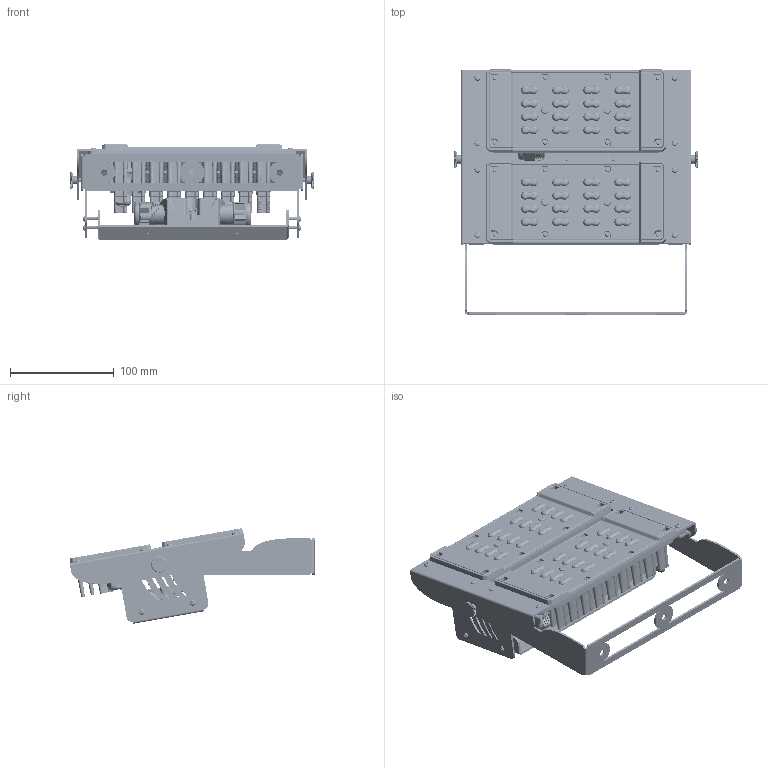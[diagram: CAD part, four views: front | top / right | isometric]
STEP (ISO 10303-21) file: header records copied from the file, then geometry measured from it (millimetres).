
FILE_DESCRIPTION(/* description */ (''),/* implementation_level */ '2;1');
FILE_NAME(/* name */ 'C:/Users/elena/OneDrive/Allegati di posta elettronica/Desktop/Cerbero double.step',/* time_stamp */ '2020-05-08T14:43:09+02:00',/* author */ (''),/* organization */ (''),/* preprocessor_version */ 'ST-DEVELOPER v18.1',/* originating_system */ 'Autodesk Translation Framework v9.2.0.1227',/* authorisation */ '');
FILE_SCHEMA (('AUTOMOTIVE_DESIGN { 1 0 10303 214 3 1 1 }'));
Products named in the file (1): Pubblico
Bounding box: 235 x 236.07 x 92.08 mm (x, y, z)
Volume: 592929.8 mm3; surface area: 495912.3 mm2
Topology: 17 solids, 23 shells, 11874 faces, 32085 edges, 20625 vertices
Faces by surface type: plane 5878, bspline 2972, cylinder 2035, torus 688, cone 257, sphere 44
Full cylindrical faces by diameter (mm): 1.8 x4, 2.1 x32, 2.2 x4, 2.24 x16, 2.7 x14, 3 x15, 3.2 x36, 3.25 x4, 3.5 x20, 4 x10, 4.1 x1, 4.2 x4, 4.5 x17, 5.4 x32, 5.6 x4, 6 x3, 6.15 x2, 7 x8, 8 x4, 12.3 x4, 12.7 x2, 13 x2, 14.368 x3, 14.4 x3, 15 x2, 15.869 x3, 19 x9, 20.869 x3, 22.999 x3
Entity records: 574143 total; most frequent: CARTESIAN_POINT 306391, ORIENTED_EDGE 64152, DIRECTION 44903, EDGE_CURVE 32076, VERTEX_POINT 20625, AXIS2_PLACEMENT_3D 15939, LINE 13025, VECTOR 13025
